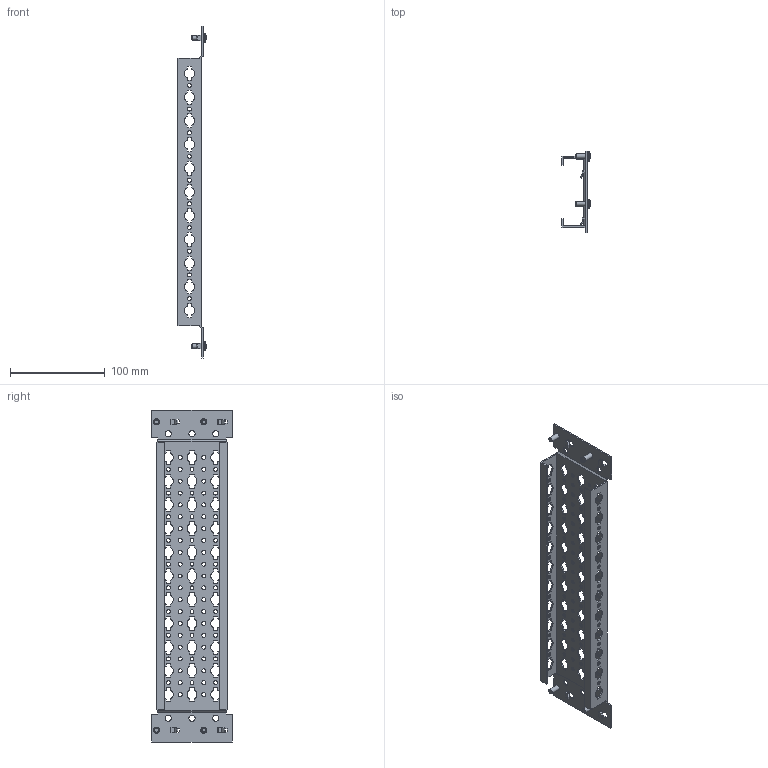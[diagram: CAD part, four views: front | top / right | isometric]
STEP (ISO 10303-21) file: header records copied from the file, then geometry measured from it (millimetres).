
FILE_DESCRIPTION(('Open CASCADE Model'),'2;1');
FILE_NAME('Open CASCADE Shape Model','2025-02-24T09:57:44',('Author'),( 'Open CASCADE'),'Open CASCADE STEP processor 7.8','Open CASCADE 7.8' ,'Unknown');
FILE_SCHEMA(('AUTOMOTIVE_DESIGN { 1 0 10303 214 1 1 1 1 }'));
Length unit declared in the file: millimetre
Products named in the file (3): Compound1; Solid1; Solid2
Assembly tree (5 placements, depth 2):
  Compound1
    Solid1
    Solid2  x4
Bounding box: 30.36 x 85 x 350.04 mm (x, y, z)
Volume: 57044.4 mm3; surface area: 82920.2 mm2
Topology: 5 solids, 5 shells, 1220 faces, 3559 edges, 2353 vertices
Faces by surface type: cylinder 668, plane 528, torus 8, cone 8, sphere 4, bspline 4
Full cylindrical faces by diameter (mm): 4.2 x92, 5 x4, 6.5 x10, 9.5 x4
Entity records: 40566 total; most frequent: CARTESIAN_POINT 7422, DIRECTION 7052, ORIENTED_EDGE 6936, EDGE_CURVE 3468, AXIS2_PLACEMENT_3D 2524, VERTEX_POINT 2302, LINE 2004, VECTOR 2004
